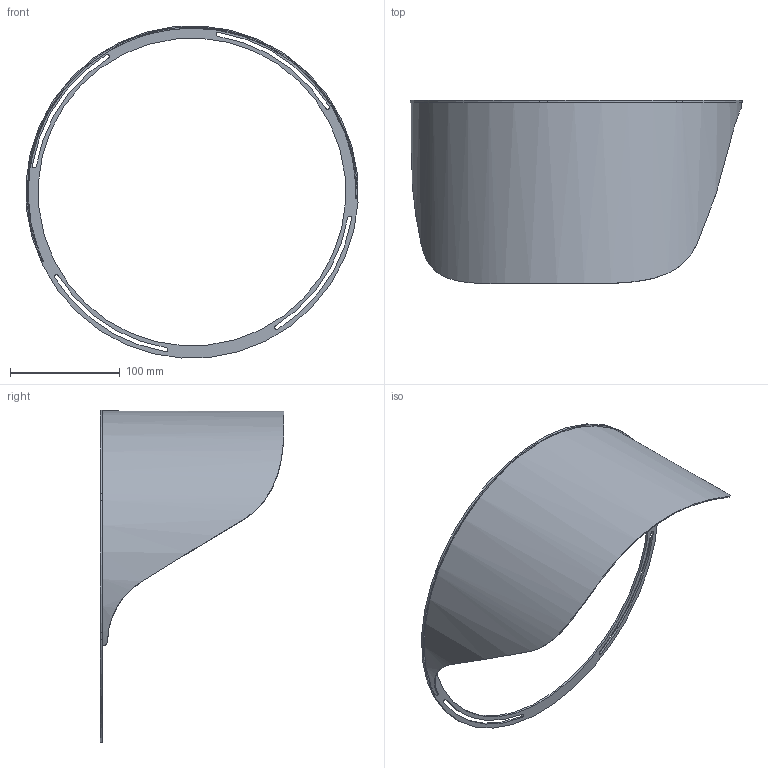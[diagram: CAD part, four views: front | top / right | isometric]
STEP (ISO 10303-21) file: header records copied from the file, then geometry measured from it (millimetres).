
FILE_DESCRIPTION(/* description */ ('Unknown'),/* implementation_level */ '2;1');
FILE_NAME(/* name */ 'Half TOPHAT- L',/* time_stamp */ '2022-08-22T08:35:59+02:00',/* author */ ('Unknown'),/* organization */ ('Unknown'),/* preprocessor_version */ 'ST-DEVELOPER v18.102',/* originating_system */ 'Solid Edge',/* authorisation */ 'Unknown');
FILE_SCHEMA (('AUTOMOTIVE_DESIGN {1 0 10303 214 3 1 1}'));
Length unit declared in the file: millimetre
Products named in the file (1): 11431122 Half TOPHAT- L
Bounding box: 302.17 x 167 x 302.17 mm (x, y, z)
Volume: 77863.9 mm3; surface area: 143726.1 mm2
Topology: 2 solids, 2 shells, 91 faces, 262 edges, 175 vertices
Faces by surface type: plane 47, cylinder 34, bspline 7, cone 2, sphere 1
Full cylindrical faces by diameter (mm): 280.2 x1, 302.8 x1
Entity records: 3810 total; most frequent: CARTESIAN_POINT 1435, ORIENTED_EDGE 518, DIRECTION 439, EDGE_CURVE 259, VERTEX_POINT 174, AXIS2_PLACEMENT_3D 165, EDGE_LOOP 113, FACE_BOUND 113
